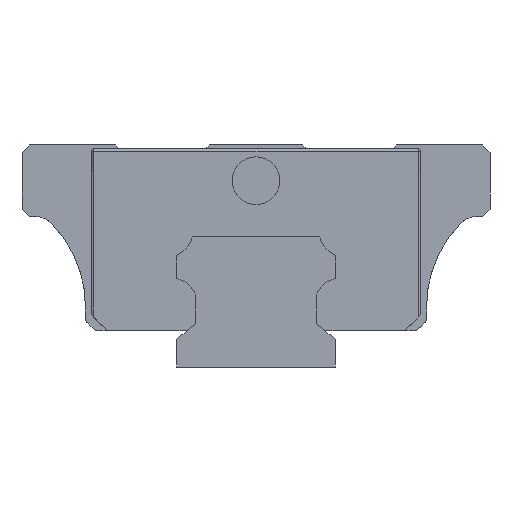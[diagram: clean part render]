
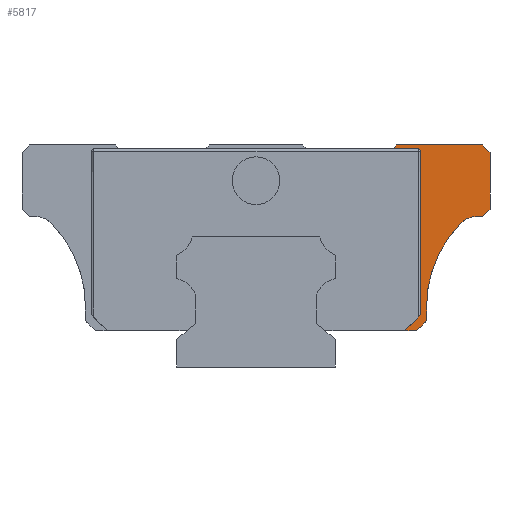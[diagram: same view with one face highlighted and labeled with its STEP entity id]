
A CAD part, left-side view. The second image highlights one B-rep face of the part: STEP entity #5817.
In plain terms, the highlighted planar face has unit normal (-1, 0, 0).
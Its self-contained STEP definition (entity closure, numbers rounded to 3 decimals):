
#59 = CARTESIAN_POINT ( 'NONE',  ( -13.9, -27.93, 16. ) ) ;
#114 = CARTESIAN_POINT ( 'NONE',  ( -13.9, -29.5, 19.9 ) ) ;
#117 = ORIENTED_EDGE ( 'NONE', *, *, #5443, .F. ) ;
#130 = CIRCLE ( 'NONE', #2588, 0.295 ) ;
#199 = EDGE_CURVE ( 'NONE', #2788, #5925, #3309, .T. ) ;
#284 = ORIENTED_EDGE ( 'NONE', *, *, #4079, .T. ) ;
#306 = EDGE_CURVE ( 'NONE', #6691, #3249, #1893, .T. ) ;
#313 = EDGE_CURVE ( 'NONE', #3617, #3148, #1193, .T. ) ;
#358 = VECTOR ( 'NONE', #3458, 1000. ) ;
#486 = ORIENTED_EDGE ( 'NONE', *, *, #3784, .T. ) ;
#682 = CARTESIAN_POINT ( 'NONE',  ( -13.9, -28.6, 19. ) ) ;
#707 = DIRECTION ( 'NONE',  ( 0., 0.643, -0.766 ) ) ;
#761 = ORIENTED_EDGE ( 'NONE', *, *, #199, .F. ) ;
#931 = VECTOR ( 'NONE', #3639, 1000. ) ;
#954 = CARTESIAN_POINT ( 'NONE',  ( -13.9, -25.788, 18.1 ) ) ;
#960 = VERTEX_POINT ( 'NONE', #954 ) ;
#965 = ORIENTED_EDGE ( 'NONE', *, *, #313, .T. ) ;
#1010 = VECTOR ( 'NONE', #4111, 1000. ) ;
#1015 = VERTEX_POINT ( 'NONE', #1101 ) ;
#1057 = VECTOR ( 'NONE', #707, 1000. ) ;
#1101 = CARTESIAN_POINT ( 'NONE',  ( -13.9, -28.55, 28. ) ) ;
#1127 = ORIENTED_EDGE ( 'NONE', *, *, #7071, .T. ) ;
#1193 = LINE ( 'NONE', #5757, #6412 ) ;
#1272 = CARTESIAN_POINT ( 'NONE',  ( -13.9, -28.6, 19. ) ) ;
#1318 = CARTESIAN_POINT ( 'NONE',  ( -13.9, -17.7, 28. ) ) ;
#1327 = ORIENTED_EDGE ( 'NONE', *, *, #306, .T. ) ;
#1521 = CARTESIAN_POINT ( 'NONE',  ( -13.9, -36.5, 7.6 ) ) ;
#1705 = VECTOR ( 'NONE', #6029, 1000. ) ;
#1751 = DIRECTION ( 'NONE',  ( 0., 0., 1. ) ) ;
#1881 = CARTESIAN_POINT ( 'NONE',  ( -13.9, -20.752, 27.205 ) ) ;
#1893 = LINE ( 'NONE', #682, #1010 ) ;
#1918 = LINE ( 'NONE', #6395, #4665 ) ;
#1968 = CARTESIAN_POINT ( 'NONE',  ( -13.9, -21.5, 5.85 ) ) ;
#2237 = DIRECTION ( 'NONE',  ( -1., 0., 0. ) ) ;
#2243 = CARTESIAN_POINT ( 'NONE',  ( -13.9, -21.5, 7.6 ) ) ;
#2290 = DIRECTION ( 'NONE',  ( 1., 0., 0. ) ) ;
#2487 = EDGE_CURVE ( 'NONE', #5287, #4085, #1918, .T. ) ;
#2586 = CARTESIAN_POINT ( 'NONE',  ( -13.9, -17.7, 28. ) ) ;
#2588 = AXIS2_PLACEMENT_3D ( 'NONE', #6389, #2968, #4164 ) ;
#2659 = LINE ( 'NONE', #6041, #5392 ) ;
#2680 = VECTOR ( 'NONE', #4088, 1000. ) ;
#2698 = VECTOR ( 'NONE', #6710, 1000. ) ;
#2775 = PLANE ( 'NONE',  #3112 ) ;
#2788 = VERTEX_POINT ( 'NONE', #5586 ) ;
#2841 = CARTESIAN_POINT ( 'NONE',  ( -13.9, -18.746, 4.6 ) ) ;
#2916 = LINE ( 'NONE', #3891, #358 ) ;
#2932 = ORIENTED_EDGE ( 'NONE', *, *, #6930, .T. ) ;
#2968 = DIRECTION ( 'NONE',  ( 1., 0., 0. ) ) ;
#3042 = VECTOR ( 'NONE', #3548, 1000. ) ;
#3112 = AXIS2_PLACEMENT_3D ( 'NONE', #6675, #2237, #1751 ) ;
#3148 = VERTEX_POINT ( 'NONE', #2243 ) ;
#3169 = DIRECTION ( 'NONE',  ( 0., 0., 1. ) ) ;
#3249 = VERTEX_POINT ( 'NONE', #1272 ) ;
#3279 = DIRECTION ( 'NONE',  ( 1., 0., 0. ) ) ;
#3292 = EDGE_CURVE ( 'NONE', #5087, #3318, #3509, .T. ) ;
#3309 = LINE ( 'NONE', #5007, #2698 ) ;
#3318 = VERTEX_POINT ( 'NONE', #3648 ) ;
#3334 = CARTESIAN_POINT ( 'NONE',  ( -13.9, -18.746, 4.6 ) ) ;
#3407 = VERTEX_POINT ( 'NONE', #4901 ) ;
#3458 = DIRECTION ( 'NONE',  ( 0., -0.707, 0.707 ) ) ;
#3509 = LINE ( 'NONE', #5285, #2680 ) ;
#3548 = DIRECTION ( 'NONE',  ( 0., 0.707, 0.707 ) ) ;
#3617 = VERTEX_POINT ( 'NONE', #6863 ) ;
#3639 = DIRECTION ( 'NONE',  ( 0., -0.707, 0.707 ) ) ;
#3648 = CARTESIAN_POINT ( 'NONE',  ( -13.9, -20.25, 4.6 ) ) ;
#3744 = ORIENTED_EDGE ( 'NONE', *, *, #4091, .T. ) ;
#3784 = EDGE_CURVE ( 'NONE', #3318, #3617, #5341, .T. ) ;
#3891 = CARTESIAN_POINT ( 'NONE',  ( -13.9, -29.5, 19.9 ) ) ;
#3963 = CIRCLE ( 'NONE', #4914, 3. ) ;
#4079 = EDGE_CURVE ( 'NONE', #3407, #1015, #7023, .T. ) ;
#4085 = VERTEX_POINT ( 'NONE', #1881 ) ;
#4088 = DIRECTION ( 'NONE',  ( 0., -1., 0. ) ) ;
#4091 = EDGE_CURVE ( 'NONE', #2788, #4085, #130, .T. ) ;
#4100 = EDGE_CURVE ( 'NONE', #5281, #5925, #6472, .T. ) ;
#4111 = DIRECTION ( 'NONE',  ( 0., -1., 0. ) ) ;
#4164 = DIRECTION ( 'NONE',  ( 0., 0., 1. ) ) ;
#4294 = VERTEX_POINT ( 'NONE', #114 ) ;
#4454 = LINE ( 'NONE', #5162, #5275 ) ;
#4525 = FACE_OUTER_BOUND ( 'NONE', #6841, .T. ) ;
#4564 = DIRECTION ( 'NONE',  ( 0., 0., 1. ) ) ;
#4665 = VECTOR ( 'NONE', #5299, 1000. ) ;
#4801 = CIRCLE ( 'NONE', #4916, 15. ) ;
#4848 = CARTESIAN_POINT ( 'NONE',  ( -13.9, -20.752, 6.605 ) ) ;
#4900 = DIRECTION ( 'NONE',  ( 0., 1., 0. ) ) ;
#4901 = CARTESIAN_POINT ( 'NONE',  ( -13.9, -29.5, 27.05 ) ) ;
#4914 = AXIS2_PLACEMENT_3D ( 'NONE', #59, #2290, #6777 ) ;
#4916 = AXIS2_PLACEMENT_3D ( 'NONE', #1521, #3279, #3169 ) ;
#5007 = CARTESIAN_POINT ( 'NONE',  ( -13.9, -20.542, 27.5 ) ) ;
#5057 = ORIENTED_EDGE ( 'NONE', *, *, #5093, .T. ) ;
#5077 = ORIENTED_EDGE ( 'NONE', *, *, #2487, .F. ) ;
#5087 = VERTEX_POINT ( 'NONE', #2841 ) ;
#5093 = EDGE_CURVE ( 'NONE', #960, #6691, #3963, .T. ) ;
#5104 = ORIENTED_EDGE ( 'NONE', *, *, #7049, .T. ) ;
#5162 = CARTESIAN_POINT ( 'NONE',  ( -13.9, -29.5, 19. ) ) ;
#5250 = CARTESIAN_POINT ( 'NONE',  ( -13.9, -28.55, 28. ) ) ;
#5275 = VECTOR ( 'NONE', #6861, 1000. ) ;
#5281 = VERTEX_POINT ( 'NONE', #2586 ) ;
#5285 = CARTESIAN_POINT ( 'NONE',  ( -13.9, -10.439, 4.6 ) ) ;
#5287 = VERTEX_POINT ( 'NONE', #4848 ) ;
#5299 = DIRECTION ( 'NONE',  ( 0., 0., 1. ) ) ;
#5341 = LINE ( 'NONE', #1968, #931 ) ;
#5392 = VECTOR ( 'NONE', #4900, 1000. ) ;
#5443 = EDGE_CURVE ( 'NONE', #5087, #5287, #7178, .T. ) ;
#5586 = CARTESIAN_POINT ( 'NONE',  ( -13.9, -20.457, 27.5 ) ) ;
#5757 = CARTESIAN_POINT ( 'NONE',  ( -13.9, -21.5, 7.6 ) ) ;
#5817 = ADVANCED_FACE ( 'NONE', ( #4525 ), #2775, .T. ) ;
#5925 = VERTEX_POINT ( 'NONE', #6342 ) ;
#6029 = DIRECTION ( 'NONE',  ( 0., -0.707, 0.707 ) ) ;
#6041 = CARTESIAN_POINT ( 'NONE',  ( -13.9, -29.5, 28. ) ) ;
#6240 = ORIENTED_EDGE ( 'NONE', *, *, #3292, .T. ) ;
#6342 = CARTESIAN_POINT ( 'NONE',  ( -13.9, -17.28, 27.5 ) ) ;
#6389 = CARTESIAN_POINT ( 'NONE',  ( -13.9, -20.457, 27.205 ) ) ;
#6395 = CARTESIAN_POINT ( 'NONE',  ( -13.9, -20.752, 6.6 ) ) ;
#6412 = VECTOR ( 'NONE', #4564, 1000. ) ;
#6472 = LINE ( 'NONE', #1318, #1057 ) ;
#6675 = CARTESIAN_POINT ( 'NONE',  ( -13.9, 0., 17.29 ) ) ;
#6691 = VERTEX_POINT ( 'NONE', #6870 ) ;
#6710 = DIRECTION ( 'NONE',  ( 0., 1., 0. ) ) ;
#6777 = DIRECTION ( 'NONE',  ( 0., 0., 1. ) ) ;
#6841 = EDGE_LOOP ( 'NONE', ( #284, #2932, #7076, #761, #3744, #5077, #117, #6240, #486, #965, #7262, #5057, #1327, #5104, #1127 ) ) ;
#6861 = DIRECTION ( 'NONE',  ( 0., 0., 1. ) ) ;
#6862 = EDGE_CURVE ( 'NONE', #3148, #960, #4801, .T. ) ;
#6863 = CARTESIAN_POINT ( 'NONE',  ( -13.9, -21.5, 5.85 ) ) ;
#6870 = CARTESIAN_POINT ( 'NONE',  ( -13.9, -27.93, 19. ) ) ;
#6930 = EDGE_CURVE ( 'NONE', #1015, #5281, #2659, .T. ) ;
#7023 = LINE ( 'NONE', #5250, #3042 ) ;
#7049 = EDGE_CURVE ( 'NONE', #3249, #4294, #2916, .T. ) ;
#7071 = EDGE_CURVE ( 'NONE', #4294, #3407, #4454, .T. ) ;
#7076 = ORIENTED_EDGE ( 'NONE', *, *, #4100, .T. ) ;
#7178 = LINE ( 'NONE', #3334, #1705 ) ;
#7262 = ORIENTED_EDGE ( 'NONE', *, *, #6862, .T. ) ;
